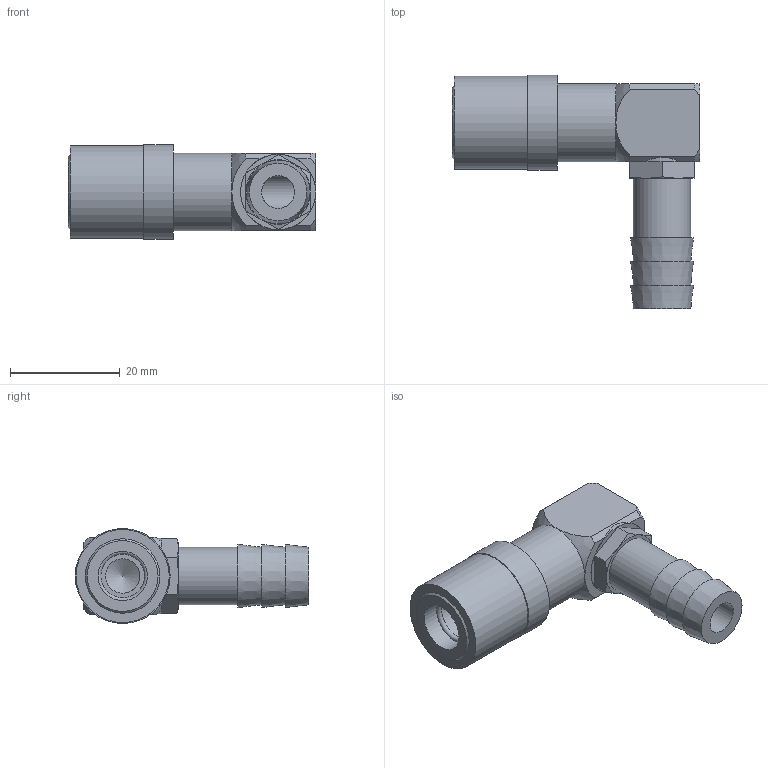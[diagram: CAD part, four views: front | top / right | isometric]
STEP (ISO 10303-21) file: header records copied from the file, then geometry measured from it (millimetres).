
FILE_DESCRIPTION(/* description */ ('STEP AP214'),/* implementation_level */ '2;1');
FILE_NAME(/* name */ 'SK209',/* time_stamp */ '2024-12-19T09:32:45+01:00',/* author */ ('License CC BY-ND 4.0'),/* organization */ ('CADENAS'),/* preprocessor_version */ 'ST-DEVELOPER v19.3',/* originating_system */ 'PARTsolutions',/* authorisation */ ' ');
FILE_SCHEMA (('AUTOMOTIVE_DESIGN {1 0 10303 214 3 1 1}'));
Length unit declared in the file: millimetre
Products named in the file (1): SK209
Bounding box: 45.21 x 42.67 x 17.34 mm (x, y, z)
Volume: 9092.7 mm3; surface area: 5322 mm2
Topology: 1 solids, 1 shells, 58 faces, 128 edges, 81 vertices
Faces by surface type: plane 29, cone 11, cylinder 9, sphere 8, torus 1
Full cylindrical faces by diameter (mm): 6 x1, 6.299 x1, 9 x2, 10.5 x1, 13.731 x1, 14.224 x1, 17 x1, 17.34 x1
Entity records: 1586 total; most frequent: CARTESIAN_POINT 309, DIRECTION 282, ORIENTED_EDGE 220, AXIS2_PLACEMENT_3D 126, EDGE_CURVE 110, FACE_BOUND 85, EDGE_LOOP 84, VERTEX_POINT 79
